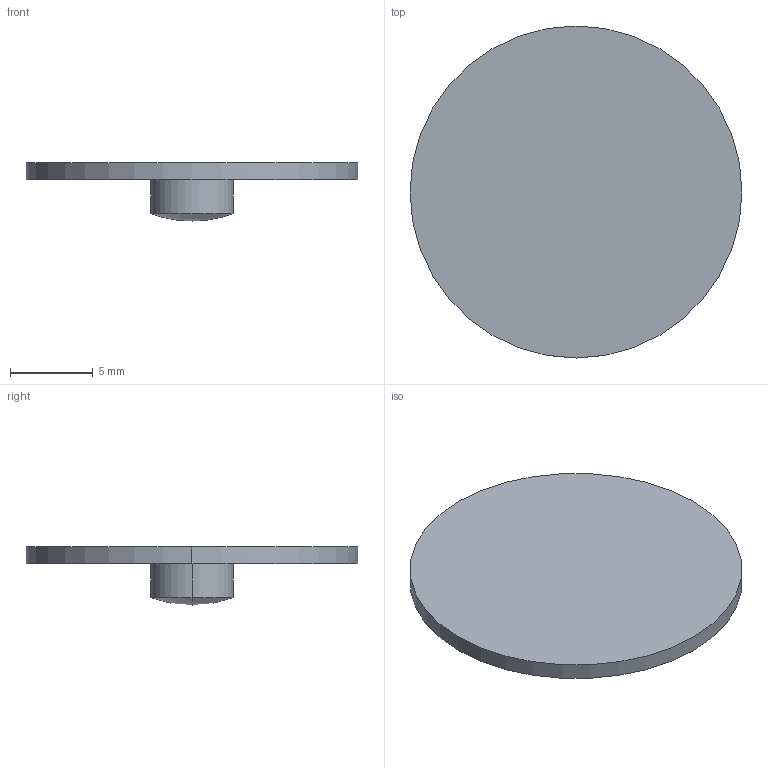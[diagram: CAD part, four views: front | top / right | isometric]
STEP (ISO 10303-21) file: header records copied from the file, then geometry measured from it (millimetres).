
FILE_DESCRIPTION(('STEP AP214'),'1');
FILE_NAME('LL-3-10.STEP','2020-03-09T17:41:13',(' '),(' '),'Spatial InterOp 3D',' ',' ');
FILE_SCHEMA(('AUTOMOTIVE_DESIGN { 1 0 10303 214 1 1 1 1 }'));
Length unit declared in the file: millimetre
Products named in the file (1): 1
Bounding box: 20 x 20 x 3.5 mm (x, y, z)
Volume: 358.8 mm3; surface area: 763.2 mm2
Topology: 2 solids, 2 shells, 9 faces, 16 edges, 9 vertices
Faces by surface type: cylinder 4, plane 3, sphere 2
Entity records: 229 total; most frequent: DIRECTION 46, CARTESIAN_POINT 34, ORIENTED_EDGE 28, AXIS2_PLACEMENT_3D 21, EDGE_CURVE 14, CIRCLE 10, ADVANCED_FACE 9, FACE_OUTER_BOUND 9
